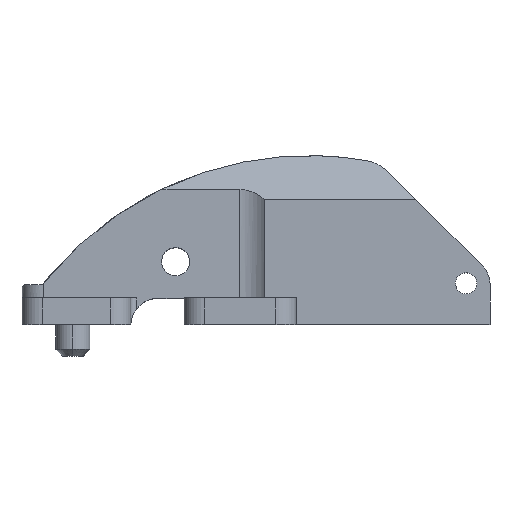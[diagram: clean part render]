
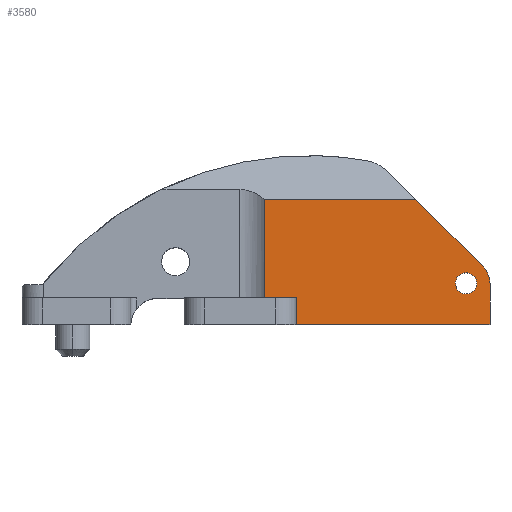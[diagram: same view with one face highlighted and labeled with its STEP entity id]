
A CAD part, top view. The second image highlights one B-rep face of the part: STEP entity #3580.
In plain terms, the highlighted planar face has unit normal (0, 0, 1).
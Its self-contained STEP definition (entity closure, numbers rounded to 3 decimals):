
#197 = CARTESIAN_POINT ( 'NONE',  ( 59.378, 6.057, 28. ) ) ;
#320 = CARTESIAN_POINT ( 'NONE',  ( 61.341, 30., 28. ) ) ;
#324 = FACE_BOUND ( 'NONE', #2300, .T. ) ;
#325 = FACE_OUTER_BOUND ( 'NONE', #2293, .T. ) ;
#326 = PLANE ( 'NONE',  #1770 ) ;
#328 = DIRECTION ( 'NONE',  ( 0., 0., -1. ) ) ;
#329 = DIRECTION ( 'NONE',  ( -1., 0., 0. ) ) ;
#790 = CARTESIAN_POINT ( 'NONE',  ( 28.121, 24.841, 28. ) ) ;
#808 = LINE ( 'NONE', #790, #2950 ) ;
#811 = CARTESIAN_POINT ( 'NONE',  ( 50.066, 18.725, 28. ) ) ;
#812 = LINE ( 'NONE', #821, #2949 ) ;
#813 = CARTESIAN_POINT ( 'NONE',  ( 57.815, 6.057, 28. ) ) ;
#814 = DIRECTION ( 'NONE',  ( 0., 0., -1. ) ) ;
#815 = DIRECTION ( 'NONE',  ( -1., 0., 0. ) ) ;
#816 = DIRECTION ( 'NONE',  ( 0., 1., 0. ) ) ;
#817 = LINE ( 'NONE', #819, #2952 ) ;
#818 = LINE ( 'NONE', #811, #2957 ) ;
#819 = CARTESIAN_POINT ( 'NONE',  ( -7.5, 3.9, 28. ) ) ;
#820 = DIRECTION ( 'NONE',  ( 1., 0., 0. ) ) ;
#821 = CARTESIAN_POINT ( 'NONE',  ( 32.841, 30., 28. ) ) ;
#822 = DIRECTION ( 'NONE',  ( 0., -1., 0. ) ) ;
#823 = LINE ( 'NONE', #824, #2954 ) ;
#824 = CARTESIAN_POINT ( 'NONE',  ( 61.341, 0., 28. ) ) ;
#825 = DIRECTION ( 'NONE',  ( 1., 0., 0. ) ) ;
#826 = LINE ( 'NONE', #827, #2955 ) ;
#827 = CARTESIAN_POINT ( 'NONE',  ( 61.341, 30., 28. ) ) ;
#828 = DIRECTION ( 'NONE',  ( 0., -1., 0. ) ) ;
#1041 = CARTESIAN_POINT ( 'NONE',  ( 60.316, 8.475, 28. ) ) ;
#1043 = CARTESIAN_POINT ( 'NONE',  ( 50.45, 18.341, 28. ) ) ;
#1050 = CARTESIAN_POINT ( 'NONE',  ( 61.341, 0., 28. ) ) ;
#1066 = CARTESIAN_POINT ( 'NONE',  ( 28.121, 3.9, 28. ) ) ;
#1067 = CARTESIAN_POINT ( 'NONE',  ( 32.841, 0., 28. ) ) ;
#1070 = CARTESIAN_POINT ( 'NONE',  ( 28.121, 18.341, 28. ) ) ;
#1071 = CARTESIAN_POINT ( 'NONE',  ( 32.841, 3.9, 28. ) ) ;
#1078 = CARTESIAN_POINT ( 'NONE',  ( 61.341, 6., 28. ) ) ;
#1310 = CARTESIAN_POINT ( 'NONE',  ( 56.253, 6.057, 28. ) ) ;
#1599 = AXIS2_PLACEMENT_3D ( 'NONE', #2226, #2227, #2228 ) ;
#1770 = AXIS2_PLACEMENT_3D ( 'NONE', #320, #328, #329 ) ;
#1973 = EDGE_CURVE ( 'NONE', #3375, #2858, #3554, .T. ) ;
#2024 = EDGE_CURVE ( 'NONE', #2858, #3375, #2943, .T. ) ;
#2025 = EDGE_CURVE ( 'NONE', #2362, #2366, #808, .T. ) ;
#2026 = EDGE_CURVE ( 'NONE', #2362, #2367, #817, .T. ) ;
#2027 = EDGE_CURVE ( 'NONE', #2367, #2363, #812, .T. ) ;
#2028 = EDGE_CURVE ( 'NONE', #2363, #2345, #823, .T. ) ;
#2029 = EDGE_CURVE ( 'NONE', #2374, #2345, #826, .T. ) ;
#2030 = EDGE_CURVE ( 'NONE', #2374, #2339, #2956, .T. ) ;
#2031 = EDGE_CURVE ( 'NONE', #2339, #2346, #818, .T. ) ;
#2033 = EDGE_CURVE ( 'NONE', #2366, #2346, #2569, .T. ) ;
#2226 = CARTESIAN_POINT ( 'NONE',  ( 57.815, 6.057, 28. ) ) ;
#2227 = DIRECTION ( 'NONE',  ( 0., 0., -1. ) ) ;
#2228 = DIRECTION ( 'NONE',  ( -1., 0., 0. ) ) ;
#2293 = EDGE_LOOP ( 'NONE', ( #3470, #3472, #3473, #3475, #3474, #3478, #3477, #3479 ) ) ;
#2300 = EDGE_LOOP ( 'NONE', ( #3476, #3471 ) ) ;
#2339 = VERTEX_POINT ( 'NONE', #1041 ) ;
#2345 = VERTEX_POINT ( 'NONE', #1050 ) ;
#2346 = VERTEX_POINT ( 'NONE', #1043 ) ;
#2362 = VERTEX_POINT ( 'NONE', #1066 ) ;
#2363 = VERTEX_POINT ( 'NONE', #1067 ) ;
#2366 = VERTEX_POINT ( 'NONE', #1070 ) ;
#2367 = VERTEX_POINT ( 'NONE', #1071 ) ;
#2374 = VERTEX_POINT ( 'NONE', #1078 ) ;
#2567 = DIRECTION ( 'NONE',  ( -1., 0., 0. ) ) ;
#2568 = DIRECTION ( 'NONE',  ( -0.707, 0.707, 0. ) ) ;
#2569 = LINE ( 'NONE', #2572, #2959 ) ;
#2572 = CARTESIAN_POINT ( 'NONE',  ( -7.5, 18.341, 28. ) ) ;
#2573 = DIRECTION ( 'NONE',  ( 1., 0., 0. ) ) ;
#2858 = VERTEX_POINT ( 'NONE', #1310 ) ;
#2943 = CIRCLE ( 'NONE', #2951, 1.563 ) ;
#2949 = VECTOR ( 'NONE', #822, 1000. ) ;
#2950 = VECTOR ( 'NONE', #816, 1000. ) ;
#2951 = AXIS2_PLACEMENT_3D ( 'NONE', #813, #814, #815 ) ;
#2952 = VECTOR ( 'NONE', #820, 1000. ) ;
#2954 = VECTOR ( 'NONE', #825, 1000. ) ;
#2955 = VECTOR ( 'NONE', #828, 1000. ) ;
#2956 = CIRCLE ( 'NONE', #2958, 3.5 ) ;
#2957 = VECTOR ( 'NONE', #2568, 1000. ) ;
#2958 = AXIS2_PLACEMENT_3D ( 'NONE', #3135, #3131, #2567 ) ;
#2959 = VECTOR ( 'NONE', #2573, 1000. ) ;
#3131 = DIRECTION ( 'NONE',  ( 0., 0., 1. ) ) ;
#3135 = CARTESIAN_POINT ( 'NONE',  ( 57.841, 6., 28. ) ) ;
#3375 = VERTEX_POINT ( 'NONE', #197 ) ;
#3470 = ORIENTED_EDGE ( 'NONE', *, *, #2025, .F. ) ;
#3471 = ORIENTED_EDGE ( 'NONE', *, *, #2024, .T. ) ;
#3472 = ORIENTED_EDGE ( 'NONE', *, *, #2026, .T. ) ;
#3473 = ORIENTED_EDGE ( 'NONE', *, *, #2027, .T. ) ;
#3474 = ORIENTED_EDGE ( 'NONE', *, *, #2029, .F. ) ;
#3475 = ORIENTED_EDGE ( 'NONE', *, *, #2028, .T. ) ;
#3476 = ORIENTED_EDGE ( 'NONE', *, *, #1973, .T. ) ;
#3477 = ORIENTED_EDGE ( 'NONE', *, *, #2031, .T. ) ;
#3478 = ORIENTED_EDGE ( 'NONE', *, *, #2030, .T. ) ;
#3479 = ORIENTED_EDGE ( 'NONE', *, *, #2033, .F. ) ;
#3554 = CIRCLE ( 'NONE', #1599, 1.563 ) ;
#3580 = ADVANCED_FACE ( 'NONE', ( #324, #325 ), #326, .F. ) ;
